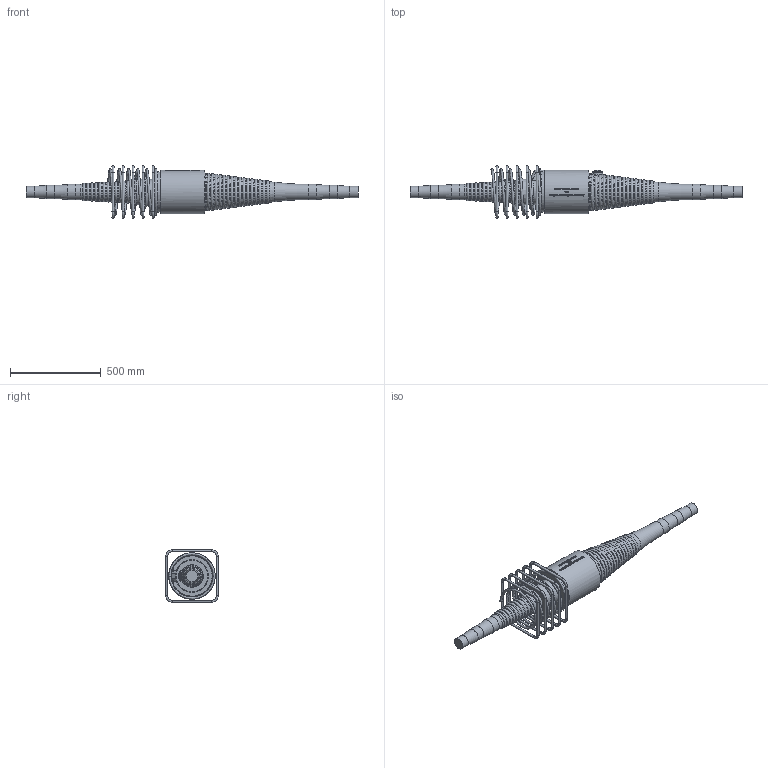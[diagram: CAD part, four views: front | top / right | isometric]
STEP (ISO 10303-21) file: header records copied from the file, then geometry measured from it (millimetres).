
FILE_DESCRIPTION(/* description */ (''),/* implementation_level */ '2;1');
FILE_NAME(/* name */ 'BBR VT CONA CMI BT 906_Coupler H Assembly_CS-34,28.stp',/* time_stamp */ '2025-05-05T16:19:46+02:00',/* author */ ('tk'),/* organization */ (''),/* preprocessor_version */ 'ST-DEVELOPER v20',/* originating_system */ 'Autodesk Inventor 2024',/* authorisation */ '');
FILE_SCHEMA (('AUTOMOTIVE_DESIGN { 1 0 10303 214 3 1 1 }'));
Products named in the file (1): BBR VT CONA CMI BT 906_Coupler H Assembly_CS-34,28
Bounding box: 1824.56 x 290 x 290 mm (x, y, z)
Volume: 29425789.3 mm3; surface area: 1224101.9 mm2
Topology: 6 solids, 6 shells, 975 faces, 2588 edges, 1679 vertices
Faces by surface type: bspline 421, plane 256, torus 130, cylinder 110, cone 34, sphere 24
Full cylindrical faces by diameter (mm): 12 x20, 34 x2, 57 x2, 64 x1, 64.013 x1, 74 x1, 74.013 x1, 84 x1, 84.013 x1, 177.282 x1, 178.841 x1, 240 x1
Entity records: 44641 total; most frequent: CARTESIAN_POINT 21617, ORIENTED_EDGE 5176, DIRECTION 3598, EDGE_CURVE 2588, VERTEX_POINT 1679, AXIS2_PLACEMENT_3D 1317, EDGE_LOOP 1041, STYLED_ITEM 981
